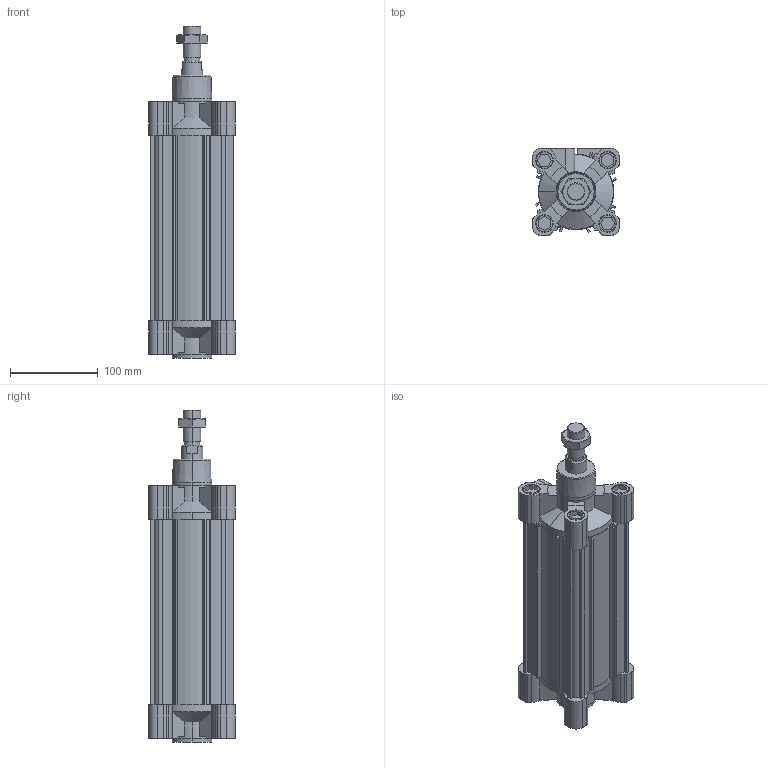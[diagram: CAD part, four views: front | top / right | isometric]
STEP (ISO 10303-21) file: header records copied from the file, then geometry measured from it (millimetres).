
FILE_DESCRIPTION (( 'STEP AP214' ), '1' );
FILE_NAME ('CP96SDB80-160C.step.step', '2020-10-21T12:51:57', ( '' ), ( '' ), 'SwSTEP 2.0', 'SolidWorks 2020', '' );
FILE_SCHEMA (( 'AUTOMOTIVE_DESIGN' ));
Length unit declared in the file: millimetre
Products named in the file (7): CP96SDB80-160C.step_Rod_Nut_20x1.5; CP96SDB80-160C.step_80_Head_Cover_80; CP96SDB80-160C.step_C96_Rod_80; CP96SDB80-160C.step_80_Rod_Cover; CP96SDB80-160C.step; CP96SDB80-160C.step_CP96_Cylinder_80; CP96SDB80-160C.step_Tie-rod_80
Assembly tree (9 placements, depth 2):
  CP96SDB80-160C.step
    CP96SDB80-160C.step_CP96_Cylinder_80
    CP96SDB80-160C.step_80_Rod_Cover
    CP96SDB80-160C.step_80_Head_Cover_80
    CP96SDB80-160C.step_Tie-rod_80  x4
    CP96SDB80-160C.step_C96_Rod_80
    CP96SDB80-160C.step_Rod_Nut_20x1.5
Bounding box: 99 x 99 x 378 mm (x, y, z)
Volume: 1839118.8 mm3; surface area: 355112 mm2
Topology: 9 solids, 9 shells, 525 faces, 1348 edges, 874 vertices
Faces by surface type: plane 267, cylinder 168, cone 88, torus 2
Entity records: 14174 total; most frequent: CARTESIAN_POINT 2675, DIRECTION 2402, ORIENTED_EDGE 2316, EDGE_CURVE 1158, AXIS2_PLACEMENT_3D 853, VERTEX_POINT 754, LINE 696, VECTOR 696
